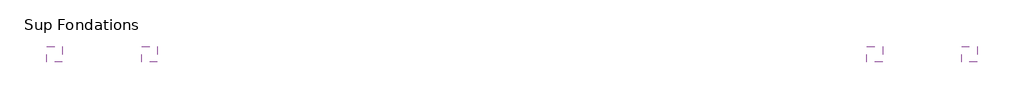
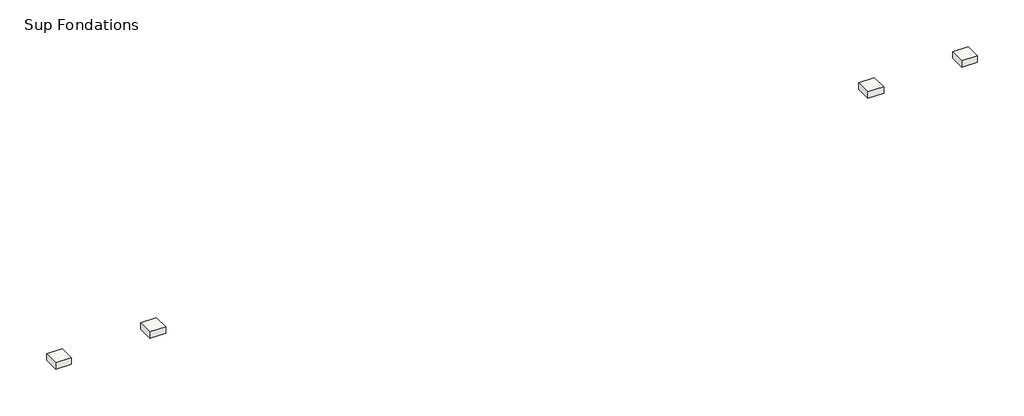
# One storey: 4 slabs.
"""IFC4 building model written with IfcOpenShell, lengths in millimetres."""

from ifc_helpers import new_model, si_unit, origin, place, context, project, spatial, transform, mapped, element, save
from components import base_rectangulaire_4c619bbc

model = new_model("IFC4")

# Units and contexts
model_context = context("Model", 3, world=origin())
ifc_project = project(units=[si_unit("LENGTHUNIT", "METRE", prefix="MILLI")], contexts=[model_context])

# Site, building, storey
site = spatial("IfcSite", under=ifc_project)
building = spatial("IfcBuilding", under=site)
storey = spatial("IfcBuildingStorey", under=building, Name="Sup Fondations", Elevation=-3050.0)

# Slabs
placement = place(None, origin())
base_rectangulaire_shape = base_rectangulaire_4c619bbc(model_context)
element("IfcSlab", 1, ObjectType="Base rectangulaire : FREYS 70x70x30 C25/30", at=placement, inside=storey, context=model_context, shape_type="MappedRepresentation", body=[
    mapped(base_rectangulaire_shape, transform((-22755.3743903, 8521.3428728, -1050.0), x_axis=(1.0, 0.0, 0.0), y_axis=(0.0, 1.0, 0.0), z_axis=(0.0, 0.0, 1.0))),
])
element("IfcSlab", 2, ObjectType="Base rectangulaire : FREYS 70x70x30 C25/30", at=placement, inside=storey, context=model_context, shape_type="MappedRepresentation", body=[
    mapped(base_rectangulaire_shape, transform((-18585.4687193, 8521.3428728, -1050.0), x_axis=(1.0, 0.0, 0.0), y_axis=(0.0, 1.0, 0.0), z_axis=(0.0, 0.0, 1.0))),
])
element("IfcSlab", 3, ObjectType="Base rectangulaire : FREYS 70x70x30 C25/30", at=placement, inside=storey, context=model_context, shape_type="MappedRepresentation", body=[
    mapped(base_rectangulaire_shape, transform((13244.6256097, 8521.3428728, -950.0), x_axis=(1.0, 0.0, 0.0), y_axis=(0.0, 1.0, 0.0), z_axis=(0.0, 0.0, 1.0))),
])
element("IfcSlab", 4, ObjectType="Base rectangulaire : FREYS 70x70x30 C25/30", at=placement, inside=storey, context=model_context, shape_type="MappedRepresentation", body=[
    mapped(base_rectangulaire_shape, transform((17404.5471618, 8521.3428728, -950.0), x_axis=(1.0, 0.0, 0.0), y_axis=(0.0, 1.0, 0.0), z_axis=(0.0, 0.0, 1.0))),
])

save(model, "model.ifc")
